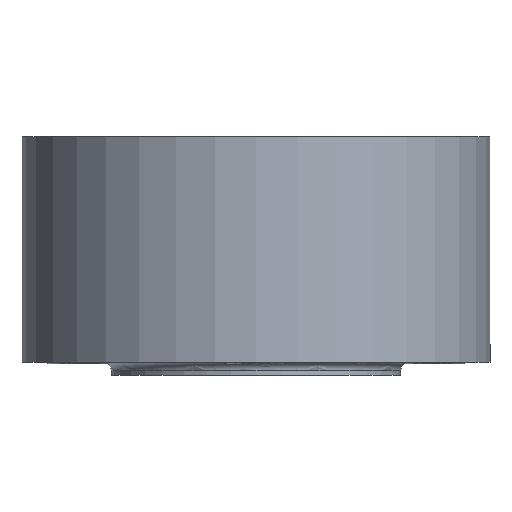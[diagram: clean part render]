
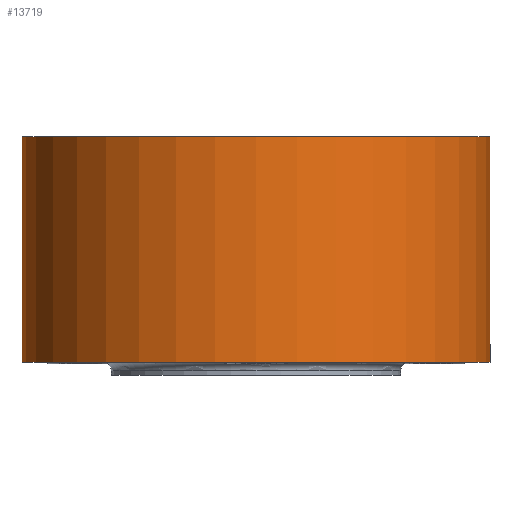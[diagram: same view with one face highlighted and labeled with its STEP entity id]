
A CAD part, front view. The second image highlights one B-rep face of the part: STEP entity #13719.
In plain terms, the highlighted cylindrical face has radius 82.5 mm (diameter 165 mm), a full revolution.
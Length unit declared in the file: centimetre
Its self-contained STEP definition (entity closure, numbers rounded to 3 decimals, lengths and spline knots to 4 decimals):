
#4660=FACE_BOUND('',#6125,.T.);
#5356=FACE_OUTER_BOUND('',#6124,.T.);
#6124=EDGE_LOOP('',(#12958));
#6125=EDGE_LOOP('',(#12959));
#6194=CIRCLE('',#14247,8.25);
#6204=CIRCLE('',#14268,8.25);
#7448=VERTEX_POINT('',#23416);
#7458=VERTEX_POINT('',#23447);
#9300=EDGE_CURVE('',#7448,#7448,#6194,.T.);
#9310=EDGE_CURVE('',#7458,#7458,#6204,.T.);
#12958=ORIENTED_EDGE('',*,*,#9310,.T.);
#12959=ORIENTED_EDGE('',*,*,#9300,.F.);
#13030=CYLINDRICAL_SURFACE('',#14267,8.25);
#13719=ADVANCED_FACE('',(#5356,#4660),#13030,.T.);
#14247=AXIS2_PLACEMENT_3D('',#23417,#16723,#16724);
#14267=AXIS2_PLACEMENT_3D('',#23446,#16763,#16764);
#14268=AXIS2_PLACEMENT_3D('',#23448,#16765,#16766);
#16723=DIRECTION('center_axis',(0.,0.,
1.));
#16724=DIRECTION('ref_axis',(-1.,0.,0.));
#16763=DIRECTION('center_axis',(0.,0.,
1.));
#16764=DIRECTION('ref_axis',(-1.,0.,0.));
#16765=DIRECTION('center_axis',(0.,0.,1.));
#16766=DIRECTION('ref_axis',(-1.,0.,0.));
#23416=CARTESIAN_POINT('',(8.25,0.,6.4));
#23417=CARTESIAN_POINT('Origin',(0.,0.,
6.4));
#23446=CARTESIAN_POINT('Origin',(0.,0.,
4.4));
#23447=CARTESIAN_POINT('',(-8.25,0.,-1.55));
#23448=CARTESIAN_POINT('Origin',(0.,0.,-1.55));
